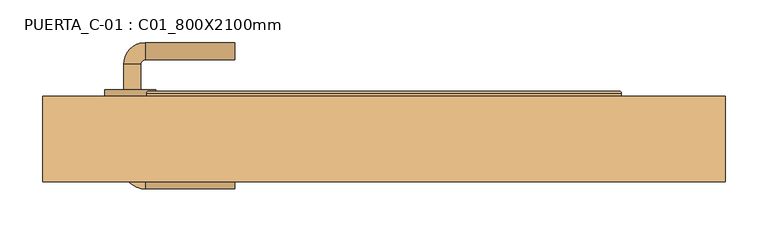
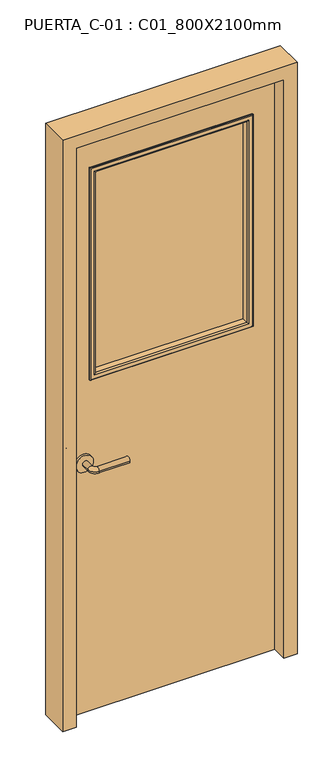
"""IFC4 building model written with IfcOpenShell, lengths in millimetres: door geometry, PUERTA_C-01 : C01_800X2100mm."""

from ifc_helpers import new_model, si_unit, point, frame, frame_2d, origin, place, context, project, spatial, polyline, circle_curve, ellipse_curve, trimmed, segment, composite_curve, outline, extrude, faceted_brep, source, transform, mapped, element, save
from ifc_brep_helpers import plane_surface, cylinder_surface, revolved_surface, advanced_brep


def puerta_c_01_c01_800x2100mm_f7d64b3f(model_context):
    return source(origin(), model_context, "Body", "SolidModel", [
        advanced_brep(
        [(-304.990625, 13.35, 900.0), (-284.990625, 13.35, 900.0), (-284.990625, -16.65, 900.0), (-304.990625, -16.65, 900.0), (-279.990625, -21.65, 900.0), (-279.990625, -41.65, 900.0), (-174.990625, -41.65, 900.0), (-174.990625, -21.65, 900.0)],
        [
            (0, 1, circle_curve(frame((-294.990625, 13.35, 900.0), z_axis=(0.0, 1.0, 0.0), x_axis=(1.0, 0.0, 0.0)), 10.0)),
            (1, 0, circle_curve(frame((-294.990625, 13.35, 900.0), z_axis=(0.0, 1.0, 0.0), x_axis=(1.0, 0.0, 0.0)), 10.0)),
            (1, 2),
            (2, 3, circle_curve(frame((-294.990625, -16.65, 900.0), z_axis=(0.0, 1.0, 0.0), x_axis=(1.0, 0.0, 0.0)), 10.0)),
            (3, 0),
            (3, 2, circle_curve(frame((-294.990625, -16.65, 900.0), z_axis=(0.0, 1.0, 0.0), x_axis=(1.0, 0.0, 0.0)), 10.0)),
            (4, 5, circle_curve(frame((-279.990625, -31.65, 900.0), z_axis=(-1.0, 0.0, 0.0), x_axis=(0.0, 1.0, 0.0)), 10.0)),
            (5, 3, circle_curve(frame((-279.990625, -16.65, 900.0), z_axis=(0.0, 0.0, -1.0), x_axis=(-1.0, 0.0, 0.0)), 25.0)),
            (2, 4, circle_curve(frame((-279.990625, -16.65, 900.0), z_axis=(0.0, 0.0, 1.0), x_axis=(-1.0, 0.0, 0.0)), 5.0)),
            (5, 4, circle_curve(frame((-279.990625, -31.65, 900.0), z_axis=(-1.0, 0.0, 0.0), x_axis=(0.0, 1.0, 0.0)), 10.0)),
            (6, 7, circle_curve(frame((-174.990625, -31.65, 900.0), z_axis=(1.0, 0.0, 0.0), x_axis=(0.0, 1.0, 0.0)), 10.0)),
            (7, 6, circle_curve(frame((-174.990625, -31.65, 900.0), z_axis=(1.0, 0.0, 0.0), x_axis=(0.0, 1.0, 0.0)), 10.0)),
            (4, 7),
            (6, 5),
        ],
        [
            plane_surface(frame((-294.990625, 13.35, 900.0), z_axis=(0.0, 1.0, 0.0), x_axis=(0.0, 0.0, 1.0))),
            cylinder_surface(frame((-294.990625, 13.35, 900.0), z_axis=(0.0, 1.0, 0.0), x_axis=(1.0, 0.0, 0.0)), 10.0),
            revolved_surface(trimmed(ellipse_curve(frame((-294.990625, -16.65, 900.0), z_axis=(0.0, -1.0, 0.0), x_axis=(1.0, 0.0, 0.0)), 10.0, 10.0), [point((-304.990625, -16.65, 900.0))], [point((-284.990625, -16.65, 900.0))], True, "CARTESIAN"), (-279.990625, -16.65, 900.0), (0.0, 0.0, -1.0)),
            revolved_surface(trimmed(ellipse_curve(frame((-294.990625, -16.65, 900.0), z_axis=(0.0, -1.0, 0.0), x_axis=(1.0, 0.0, 0.0)), 10.0, 10.0), [point((-284.990625, -16.65, 900.0))], [point((-304.990625, -16.65, 900.0))], True, "CARTESIAN"), (-279.990625, -16.65, 900.0), (0.0, 0.0, -1.0)),
            plane_surface(frame((-174.990625, -31.65, 900.0), z_axis=(1.0, 0.0, 0.0), x_axis=(0.0, 0.0, 1.0))),
            cylinder_surface(frame((-279.990625, -31.65, 900.0), z_axis=(-1.0, 0.0, 0.0), x_axis=(0.0, 1.0, 0.0)), 10.0),
        ],
        [
            (0, [[1, 2]]),
            (1, [[3, 4, 5, -2]]),
            (1, [[-5, 6, -3, -1]]),
            (2, [[7, 8, -4, 9]]),
            (3, [[10, -9, -6, -8]]),
            (4, [[11, 12]]),
            (5, [[13, -11, 14, -7]]),
            (5, [[-14, -12, -13, -10]]),
        ],
    ),
        extrude(outline(composite_curve([segment(trimmed(circle_curve(frame_2d((900.0, -297.490625)), 30.0), [point((900.0, -327.490625))], [point((900.0, -267.490625))], False, "CARTESIAN"), True, "CONTINUOUS"), segment(trimmed(circle_curve(frame_2d((900.0, -297.490625)), 30.0), [point((900.0, -267.490625))], [point((900.0, -327.490625))], False, "CARTESIAN"), True, "CONTINUOUS")], self_intersect=False)), frame((0.0, 13.35, 0.0), z_axis=(0.0, 1.0, 0.0), x_axis=(0.0, 0.0, 1.0)), (0.0, 0.0, 1.0), 8.0),
        advanced_brep(
        [(-304.990625, 74.35, 900.0), (-284.990625, 74.35, 900.0), (-304.990625, 104.35, 900.0), (-284.990625, 104.35, 900.0), (-279.990625, 109.35, 900.0), (-279.990625, 129.35, 900.0), (-174.990625, 129.35, 900.0), (-174.990625, 109.35, 900.0)],
        [
            (0, 1, circle_curve(frame((-294.990625, 74.35, 900.0), z_axis=(0.0, -1.0, 0.0), x_axis=(1.0, 0.0, 0.0)), 10.0)),
            (1, 0, circle_curve(frame((-294.990625, 74.35, 900.0), z_axis=(0.0, -1.0, 0.0), x_axis=(1.0, 0.0, 0.0)), 10.0)),
            (0, 2),
            (2, 3, circle_curve(frame((-294.990625, 104.35, 900.0), z_axis=(0.0, -1.0, 0.0), x_axis=(1.0, 0.0, 0.0)), 10.0)),
            (3, 1),
            (3, 2, circle_curve(frame((-294.990625, 104.35, 900.0), z_axis=(0.0, -1.0, 0.0), x_axis=(1.0, 0.0, 0.0)), 10.0)),
            (4, 3, circle_curve(frame((-279.990625, 104.35, 900.0), z_axis=(0.0, 0.0, 1.0), x_axis=(-1.0, 0.0, 0.0)), 5.0)),
            (2, 5, circle_curve(frame((-279.990625, 104.35, 900.0), z_axis=(0.0, 0.0, -1.0), x_axis=(-1.0, 0.0, 0.0)), 25.0)),
            (5, 4, circle_curve(frame((-279.990625, 119.35, 900.0), z_axis=(-1.0, 0.0, 0.0), x_axis=(0.0, -1.0, 0.0)), 10.0)),
            (4, 5, circle_curve(frame((-279.990625, 119.35, 900.0), z_axis=(-1.0, 0.0, 0.0), x_axis=(0.0, -1.0, 0.0)), 10.0)),
            (6, 7, circle_curve(frame((-174.990625, 119.35, 900.0), z_axis=(1.0, 0.0, 0.0), x_axis=(0.0, -1.0, 0.0)), 10.0)),
            (7, 6, circle_curve(frame((-174.990625, 119.35, 900.0), z_axis=(1.0, 0.0, 0.0), x_axis=(0.0, -1.0, 0.0)), 10.0)),
            (5, 6),
            (7, 4),
        ],
        [
            plane_surface(frame((-294.990625, 74.35, 900.0), z_axis=(0.0, -1.0, 0.0), x_axis=(0.0, 0.0, 1.0))),
            cylinder_surface(frame((-294.990625, 74.35, 900.0), z_axis=(0.0, -1.0, 0.0), x_axis=(1.0, 0.0, 0.0)), 10.0),
            revolved_surface(trimmed(ellipse_curve(frame((-294.990625, 104.35, 900.0), z_axis=(0.0, -1.0, 0.0), x_axis=(1.0, 0.0, 0.0)), 10.0, 10.0), [point((-304.990625, 104.35, 900.0))], [point((-284.990625, 104.35, 900.0))], True, "CARTESIAN"), (-279.990625, 104.35, 900.0), (0.0, 0.0, -1.0)),
            revolved_surface(trimmed(ellipse_curve(frame((-294.990625, 104.35, 900.0), z_axis=(0.0, -1.0, 0.0), x_axis=(1.0, 0.0, 0.0)), 10.0, 10.0), [point((-284.990625, 104.35, 900.0))], [point((-304.990625, 104.35, 900.0))], True, "CARTESIAN"), (-279.990625, 104.35, 900.0), (0.0, 0.0, -1.0)),
            plane_surface(frame((-174.990625, 119.35, 900.0), z_axis=(1.0, 0.0, 0.0), x_axis=(0.0, 0.0, 1.0))),
            cylinder_surface(frame((-279.990625, 119.35, 900.0), z_axis=(-1.0, 0.0, 0.0), x_axis=(0.0, -1.0, 0.0)), 10.0),
        ],
        [
            (0, [[1, 2]]),
            (1, [[-1, 3, 4, 5]]),
            (1, [[-2, -5, 6, -3]]),
            (2, [[7, -4, 8, 9]]),
            (3, [[-8, -6, -7, 10]]),
            (4, [[11, 12]]),
            (5, [[-9, 13, -12, 14]]),
            (5, [[-10, -14, -11, -13]]),
        ],
    ),
        extrude(outline(composite_curve([segment(trimmed(circle_curve(frame_2d((900.0, -297.490625)), 30.0), [point((900.0, -327.490625))], [point((900.0, -267.490625))], False, "CARTESIAN"), True, "CONTINUOUS"), segment(trimmed(circle_curve(frame_2d((900.0, -297.490625)), 30.0), [point((900.0, -267.490625))], [point((900.0, -327.490625))], False, "CARTESIAN"), True, "CONTINUOUS")], self_intersect=False)), frame((0.0, 66.35, 0.0), z_axis=(0.0, 1.0, 0.0), x_axis=(0.0, 0.0, 1.0)), (0.0, 0.0, 1.0), 8.0),
        faceted_brep([(370.0, 33.1875, 0.0), (370.0, 66.35, 0.0), (400.0, 66.35, 0.0), (400.0, -33.65, 0.0), (354.125, -33.65, 0.0), (354.125, 33.1875, 0.0), (370.0, 33.1875, 2100.0), (370.0, 66.35, 2100.0), (-370.0, 66.35, 2100.0), (-370.0, 66.35, 0.0), (-400.0, 66.35, 0.0), (-400.0, 66.35, 2130.0), (400.0, 66.35, 2130.0), (400.0, -33.65, 2130.0), (-400.0, -33.65, 2130.0), (-400.0, -33.65, 0.0), (-354.125, -33.65, 0.0), (-354.125, -33.65, 2084.125), (354.125, -33.65, 2084.125), (354.125, 33.1875, 2084.125), (-354.125, 33.1875, 2084.125), (-354.125, 33.1875, 0.0), (-370.0, 33.1875, 0.0), (-370.0, 33.1875, 2100.0)], [[[0, 1, 2, 3, 4, 5]], [[1, 0, 6, 7]], [[2, 1, 7, 8, 9, 10, 11, 12]], [[3, 2, 12, 13]], [[4, 3, 13, 14, 15, 16, 17, 18]], [[0, 5, 19, 20, 21, 22, 23, 6]], [[7, 6, 23, 8]], [[13, 12, 11, 14]], [[22, 21, 16, 15, 10, 9]], [[8, 23, 22, 9]], [[14, 11, 10, 15]], [[5, 4, 18, 19]], [[19, 18, 17, 20]], [[20, 17, 16, 21]]]),
        extrude(outline(polyline([(2100.0, -370.0), (0.0, -370.0), (0.0, 370.0), (2100.0, 370.0), (2100.0, -370.0)]), holes=[polyline([(1947.6, -270.0), (1947.6, 270.0), (1200.0, 270.0), (1200.0, -270.0), (1947.6, -270.0)])]), frame((0.0, 21.35, 0.0), z_axis=(0.0, 1.0, 0.0), x_axis=(0.0, 0.0, 1.0)), (0.0, 0.0, 1.0), 45.0),
        extrude(outline(polyline([(270.0, 41.35), (-270.0, 41.35), (-270.0, 46.35), (270.0, 46.35), (270.0, 41.35)])), frame((0.0, 0.0, 1200.0), z_axis=(0.0, 0.0, 1.0), x_axis=(1.0, 0.0, 0.0)), (0.0, 0.0, 1.0), 747.6),
        advanced_brep(
        [(-270.0, 41.35, 1200.0), (-270.0, 21.35, 1200.0), (-270.0, 21.35, 1947.6), (-270.0, 41.35, 1947.6), (-258.0, 20.35, 1212.0), (-258.0, 41.35, 1212.0), (-258.0, 41.35, 1935.6), (-258.0, 20.35, 1935.6), (-263.0, 15.35, 1207.0), (-263.0, 15.35, 1940.6), (-278.0, 17.35, 1192.0), (-276.0, 15.35, 1194.0), (-276.0, 15.35, 1953.6), (-278.0, 17.35, 1955.6), (-278.0, 21.35, 1192.0), (-278.0, 21.35, 1955.6), (270.0, 21.35, 1947.6), (270.0, 41.35, 1947.6), (258.0, 41.35, 1935.6), (258.0, 20.35, 1935.6), (263.0, 15.35, 1940.6), (276.0, 15.35, 1953.6), (278.0, 17.35, 1955.6), (278.0, 21.35, 1955.6), (270.0, 21.35, 1200.0), (270.0, 41.35, 1200.0), (258.0, 41.35, 1212.0), (258.0, 20.35, 1212.0), (263.0, 15.35, 1207.0), (276.0, 15.35, 1194.0), (278.0, 17.35, 1192.0), (278.0, 21.35, 1192.0)],
        [
            (0, 1),
            (1, 2),
            (2, 3),
            (3, 0),
            (4, 5),
            (5, 6),
            (6, 7),
            (7, 4),
            (8, 4, ellipse_curve(frame((-263.0, 20.35, 1207.0), z_axis=(-0.7071067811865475, 0.0, 0.7071067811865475), x_axis=(-0.7071067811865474, 0.0, -0.7071067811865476)), 7.0710678, 5.0)),
            (7, 9, ellipse_curve(frame((-263.0, 20.35, 1940.6), z_axis=(-0.7071067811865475, 0.0, -0.7071067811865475), x_axis=(0.7071067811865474, 0.0, -0.7071067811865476)), 7.0710678, 5.0)),
            (9, 8),
            (10, 11, ellipse_curve(frame((-276.0, 17.35, 1194.0), z_axis=(-0.7071067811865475, 0.0, 0.7071067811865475), x_axis=(-0.7071067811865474, 0.0, -0.7071067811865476)), 2.8284271, 2.0)),
            (11, 12),
            (12, 13, ellipse_curve(frame((-276.0, 17.35, 1953.6), z_axis=(-0.7071067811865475, 0.0, -0.7071067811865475), x_axis=(0.7071067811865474, 0.0, -0.7071067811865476)), 2.8284271, 2.0)),
            (13, 10),
            (14, 10),
            (13, 15),
            (15, 14),
            (2, 16),
            (16, 17),
            (17, 3),
            (6, 18),
            (18, 19),
            (19, 7),
            (19, 20, ellipse_curve(frame((263.0, 20.35, 1940.6), z_axis=(-0.7071067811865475, 0.0, 0.7071067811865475), x_axis=(-0.7071067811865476, 0.0, -0.7071067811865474)), 7.0710678, 5.0)),
            (20, 9),
            (12, 21),
            (21, 22, ellipse_curve(frame((276.0, 17.35, 1953.6), z_axis=(-0.7071067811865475, 0.0, 0.7071067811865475), x_axis=(-0.7071067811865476, 0.0, -0.7071067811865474)), 2.8284271, 2.0)),
            (22, 13),
            (22, 23),
            (23, 15),
            (16, 24),
            (24, 25),
            (25, 17),
            (18, 26),
            (26, 27),
            (27, 19),
            (27, 28, ellipse_curve(frame((263.0, 20.35, 1207.0), z_axis=(0.7071067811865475, 0.0, 0.7071067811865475), x_axis=(-0.7071067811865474, 0.0, 0.7071067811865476)), 7.0710678, 5.0)),
            (28, 20),
            (21, 29),
            (29, 30, ellipse_curve(frame((276.0, 17.35, 1194.0), z_axis=(0.7071067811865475, 0.0, 0.7071067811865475), x_axis=(-0.7071067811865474, 0.0, 0.7071067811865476)), 2.8284271, 2.0)),
            (30, 22),
            (30, 31),
            (31, 23),
            (31, 14),
            (1, 24),
            (0, 25),
            (5, 26),
            (4, 27),
            (8, 28),
            (11, 29),
            (10, 30),
        ],
        [
            plane_surface(frame((-270.0, 21.35, 1200.0), z_axis=(-1.0, 0.0, 0.0), x_axis=(0.0, 0.0, 1.0))),
            plane_surface(frame((-258.0, 41.35, 1212.0), z_axis=(1.0, 0.0, 0.0), x_axis=(0.0, 0.0, 1.0))),
            cylinder_surface(frame((-263.0, 20.35, 1200.0), z_axis=(0.0, 0.0, -1.0), x_axis=(-1.0, 0.0, 0.0)), 5.0),
            cylinder_surface(frame((-276.0, 17.35, 1200.0), z_axis=(0.0, 0.0, -1.0), x_axis=(-1.0, 0.0, 0.0)), 2.0),
            plane_surface(frame((-278.0, 17.35, 1192.0), z_axis=(-1.0, 0.0, 0.0), x_axis=(0.0, 0.0, 1.0))),
            plane_surface(frame((-270.0, 21.35, 1947.6), z_axis=(0.0, 0.0, 1.0), x_axis=(1.0, 0.0, 0.0))),
            plane_surface(frame((-258.0, 41.35, 1935.6), z_axis=(0.0, 0.0, -1.0), x_axis=(1.0, 0.0, 0.0))),
            cylinder_surface(frame((-270.0, 20.35, 1940.6), z_axis=(-1.0, 0.0, 0.0), x_axis=(0.0, 0.0, 1.0)), 5.0),
            cylinder_surface(frame((-270.0, 17.35, 1953.6), z_axis=(-1.0, 0.0, 0.0), x_axis=(0.0, 0.0, 1.0)), 2.0),
            plane_surface(frame((-278.0, 17.35, 1955.6), z_axis=(0.0, 0.0, 1.0), x_axis=(1.0, 0.0, 0.0))),
            plane_surface(frame((270.0, 21.35, 1947.6), z_axis=(1.0, 0.0, 0.0), x_axis=(0.0, 0.0, -1.0))),
            plane_surface(frame((258.0, 41.35, 1935.6), z_axis=(-1.0, 0.0, 0.0), x_axis=(0.0, 0.0, -1.0))),
            cylinder_surface(frame((263.0, 20.35, 1947.6), z_axis=(0.0, 0.0, 1.0), x_axis=(1.0, 0.0, 0.0)), 5.0),
            cylinder_surface(frame((276.0, 17.35, 1947.6), z_axis=(0.0, 0.0, 1.0), x_axis=(1.0, 0.0, 0.0)), 2.0),
            plane_surface(frame((278.0, 17.35, 1955.6), z_axis=(1.0, 0.0, 0.0), x_axis=(0.0, 0.0, -1.0))),
            plane_surface(frame((278.0, 21.35, 1192.0), z_axis=(0.0, 1.0, 0.0), x_axis=(-1.0, 0.0, 0.0))),
            plane_surface(frame((270.0, 21.35, 1200.0), z_axis=(0.0, 0.0, -1.0), x_axis=(-1.0, 0.0, 0.0))),
            plane_surface(frame((270.0, 41.35, 1200.0), z_axis=(0.0, 1.0, 0.0), x_axis=(-1.0, 0.0, 0.0))),
            plane_surface(frame((258.0, 41.35, 1212.0), z_axis=(0.0, 0.0, 1.0), x_axis=(-1.0, 0.0, 0.0))),
            cylinder_surface(frame((270.0, 20.35, 1207.0), z_axis=(1.0, 0.0, 0.0), x_axis=(0.0, 0.0, -1.0)), 5.0),
            plane_surface(frame((263.0, 15.35, 1207.0), z_axis=(0.0, -1.0, 0.0), x_axis=(-1.0, 0.0, 0.0))),
            cylinder_surface(frame((270.0, 17.35, 1194.0), z_axis=(1.0, 0.0, 0.0), x_axis=(0.0, 0.0, -1.0)), 2.0),
            plane_surface(frame((278.0, 17.35, 1192.0), z_axis=(0.0, 0.0, -1.0), x_axis=(-1.0, 0.0, 0.0))),
        ],
        [
            (0, [[1, 2, 3, 4]]),
            (1, [[5, 6, 7, 8]]),
            (2, [[9, -8, 10, 11]]),
            (3, [[12, 13, 14, 15]]),
            (4, [[16, -15, 17, 18]]),
            (5, [[-3, 19, 20, 21]]),
            (6, [[-7, 22, 23, 24]]),
            (7, [[-10, -24, 25, 26]]),
            (8, [[-14, 27, 28, 29]]),
            (9, [[-17, -29, 30, 31]]),
            (10, [[-20, 32, 33, 34]]),
            (11, [[-23, 35, 36, 37]]),
            (12, [[-25, -37, 38, 39]]),
            (13, [[-28, 40, 41, 42]]),
            (14, [[-30, -42, 43, 44]]),
            (15, [[-31, -44, 45, -18], [46, -32, -19, -2]]),
            (16, [[-33, -46, -1, 47]]),
            (17, [[-21, -34, -47, -4], [48, -35, -22, -6]]),
            (18, [[-36, -48, -5, 49]]),
            (19, [[-38, -49, -9, 50]]),
            (20, [[51, -40, -27, -13], [-26, -39, -50, -11]]),
            (21, [[-41, -51, -12, 52]]),
            (22, [[-43, -52, -16, -45]]),
        ],
    ),
        advanced_brep(
        [(-270.0, 46.35, 1947.6), (-270.0, 66.35, 1947.6), (-270.0, 66.35, 1200.0), (-270.0, 46.35, 1200.0), (-258.0, 67.35, 1935.6), (-258.0, 46.35, 1935.6), (-258.0, 46.35, 1212.0), (-258.0, 67.35, 1212.0), (-263.0, 72.35, 1940.6), (-263.0, 72.35, 1207.0), (-278.0, 70.35, 1955.6), (-276.0, 72.35, 1953.6), (-276.0, 72.35, 1194.0), (-278.0, 70.35, 1192.0), (-278.0, 66.35, 1955.6), (-278.0, 66.35, 1192.0), (270.0, 66.35, 1200.0), (270.0, 46.35, 1200.0), (258.0, 46.35, 1212.0), (258.0, 67.35, 1212.0), (263.0, 72.35, 1207.0), (276.0, 72.35, 1194.0), (278.0, 70.35, 1192.0), (278.0, 66.35, 1192.0), (270.0, 66.35, 1947.6), (270.0, 46.35, 1947.6), (258.0, 46.35, 1935.6), (258.0, 67.35, 1935.6), (263.0, 72.35, 1940.6), (276.0, 72.35, 1953.6), (278.0, 70.35, 1955.6), (278.0, 66.35, 1955.6)],
        [
            (0, 1),
            (1, 2),
            (2, 3),
            (3, 0),
            (4, 5),
            (5, 6),
            (6, 7),
            (7, 4),
            (8, 4, ellipse_curve(frame((-263.0, 67.35, 1940.6), z_axis=(-0.7071067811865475, 0.0, -0.7071067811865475), x_axis=(-0.7071067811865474, 0.0, 0.7071067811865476)), 7.0710678, 5.0)),
            (7, 9, ellipse_curve(frame((-263.0, 67.35, 1207.0), z_axis=(-0.7071067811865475, 0.0, 0.7071067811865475), x_axis=(0.7071067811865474, 0.0, 0.7071067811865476)), 7.0710678, 5.0)),
            (9, 8),
            (10, 11, ellipse_curve(frame((-276.0, 70.35, 1953.6), z_axis=(-0.7071067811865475, 0.0, -0.7071067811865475), x_axis=(-0.7071067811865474, 0.0, 0.7071067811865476)), 2.8284271, 2.0)),
            (11, 12),
            (12, 13, ellipse_curve(frame((-276.0, 70.35, 1194.0), z_axis=(-0.7071067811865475, 0.0, 0.7071067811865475), x_axis=(0.7071067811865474, 0.0, 0.7071067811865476)), 2.8284271, 2.0)),
            (13, 10),
            (14, 10),
            (13, 15),
            (15, 14),
            (2, 16),
            (16, 17),
            (17, 3),
            (6, 18),
            (18, 19),
            (19, 7),
            (19, 20, ellipse_curve(frame((263.0, 67.35, 1207.0), z_axis=(-0.7071067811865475, 0.0, -0.7071067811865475), x_axis=(-0.7071067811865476, 0.0, 0.7071067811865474)), 7.0710678, 5.0)),
            (20, 9),
            (12, 21),
            (21, 22, ellipse_curve(frame((276.0, 70.35, 1194.0), z_axis=(-0.7071067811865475, 0.0, -0.7071067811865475), x_axis=(-0.7071067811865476, 0.0, 0.7071067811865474)), 2.8284271, 2.0)),
            (22, 13),
            (22, 23),
            (23, 15),
            (16, 24),
            (24, 25),
            (25, 17),
            (18, 26),
            (26, 27),
            (27, 19),
            (27, 28, ellipse_curve(frame((263.0, 67.35, 1940.6), z_axis=(0.7071067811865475, 0.0, -0.7071067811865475), x_axis=(-0.7071067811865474, 0.0, -0.7071067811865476)), 7.0710678, 5.0)),
            (28, 20),
            (21, 29),
            (29, 30, ellipse_curve(frame((276.0, 70.35, 1953.6), z_axis=(0.7071067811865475, 0.0, -0.7071067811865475), x_axis=(-0.7071067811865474, 0.0, -0.7071067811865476)), 2.8284271, 2.0)),
            (30, 22),
            (30, 31),
            (31, 23),
            (31, 14),
            (1, 24),
            (0, 25),
            (5, 26),
            (4, 27),
            (8, 28),
            (11, 29),
            (10, 30),
        ],
        [
            plane_surface(frame((-270.0, 66.35, 1947.6), z_axis=(-1.0, 0.0, 0.0), x_axis=(0.0, 0.0, -1.0))),
            plane_surface(frame((-258.0, 46.35, 1935.6), z_axis=(1.0, 0.0, 0.0), x_axis=(0.0, 0.0, -1.0))),
            cylinder_surface(frame((-263.0, 67.35, 1947.6), z_axis=(0.0, 0.0, 1.0), x_axis=(-1.0, 0.0, 0.0)), 5.0),
            cylinder_surface(frame((-276.0, 70.35, 1947.6), z_axis=(0.0, 0.0, 1.0), x_axis=(-1.0, 0.0, 0.0)), 2.0),
            plane_surface(frame((-278.0, 70.35, 1955.6), z_axis=(-1.0, 0.0, 0.0), x_axis=(0.0, 0.0, -1.0))),
            plane_surface(frame((-270.0, 66.35, 1200.0), z_axis=(0.0, 0.0, -1.0), x_axis=(1.0, 0.0, 0.0))),
            plane_surface(frame((-258.0, 46.35, 1212.0), z_axis=(0.0, 0.0, 1.0), x_axis=(1.0, 0.0, 0.0))),
            cylinder_surface(frame((-270.0, 67.35, 1207.0), z_axis=(-1.0, 0.0, 0.0), x_axis=(0.0, 0.0, -1.0)), 5.0),
            cylinder_surface(frame((-270.0, 70.35, 1194.0), z_axis=(-1.0, 0.0, 0.0), x_axis=(0.0, 0.0, -1.0)), 2.0),
            plane_surface(frame((-278.0, 70.35, 1192.0), z_axis=(0.0, 0.0, -1.0), x_axis=(1.0, 0.0, 0.0))),
            plane_surface(frame((270.0, 66.35, 1200.0), z_axis=(1.0, 0.0, 0.0), x_axis=(0.0, 0.0, 1.0))),
            plane_surface(frame((258.0, 46.35, 1212.0), z_axis=(-1.0, 0.0, 0.0), x_axis=(0.0, 0.0, 1.0))),
            cylinder_surface(frame((263.0, 67.35, 1200.0), z_axis=(0.0, 0.0, -1.0), x_axis=(1.0, 0.0, 0.0)), 5.0),
            cylinder_surface(frame((276.0, 70.35, 1200.0), z_axis=(0.0, 0.0, -1.0), x_axis=(1.0, 0.0, 0.0)), 2.0),
            plane_surface(frame((278.0, 70.35, 1192.0), z_axis=(1.0, 0.0, 0.0), x_axis=(0.0, 0.0, 1.0))),
            plane_surface(frame((278.0, 66.35, 1955.6), z_axis=(0.0, -1.0, 0.0), x_axis=(-1.0, 0.0, 0.0))),
            plane_surface(frame((270.0, 66.35, 1947.6), z_axis=(0.0, 0.0, 1.0), x_axis=(-1.0, 0.0, 0.0))),
            plane_surface(frame((270.0, 46.35, 1947.6), z_axis=(0.0, -1.0, 0.0), x_axis=(-1.0, 0.0, 0.0))),
            plane_surface(frame((258.0, 46.35, 1935.6), z_axis=(0.0, 0.0, -1.0), x_axis=(-1.0, 0.0, 0.0))),
            cylinder_surface(frame((270.0, 67.35, 1940.6), z_axis=(1.0, 0.0, 0.0), x_axis=(0.0, 0.0, 1.0)), 5.0),
            plane_surface(frame((263.0, 72.35, 1940.6), z_axis=(0.0, 1.0, 0.0), x_axis=(-1.0, 0.0, 0.0))),
            cylinder_surface(frame((270.0, 70.35, 1953.6), z_axis=(1.0, 0.0, 0.0), x_axis=(0.0, 0.0, 1.0)), 2.0),
            plane_surface(frame((278.0, 70.35, 1955.6), z_axis=(0.0, 0.0, 1.0), x_axis=(-1.0, 0.0, 0.0))),
        ],
        [
            (0, [[1, 2, 3, 4]]),
            (1, [[5, 6, 7, 8]]),
            (2, [[9, -8, 10, 11]]),
            (3, [[12, 13, 14, 15]]),
            (4, [[16, -15, 17, 18]]),
            (5, [[-3, 19, 20, 21]]),
            (6, [[-7, 22, 23, 24]]),
            (7, [[-10, -24, 25, 26]]),
            (8, [[-14, 27, 28, 29]]),
            (9, [[-17, -29, 30, 31]]),
            (10, [[-20, 32, 33, 34]]),
            (11, [[-23, 35, 36, 37]]),
            (12, [[-25, -37, 38, 39]]),
            (13, [[-28, 40, 41, 42]]),
            (14, [[-30, -42, 43, 44]]),
            (15, [[-31, -44, 45, -18], [46, -32, -19, -2]]),
            (16, [[-33, -46, -1, 47]]),
            (17, [[-21, -34, -47, -4], [48, -35, -22, -6]]),
            (18, [[-36, -48, -5, 49]]),
            (19, [[-38, -49, -9, 50]]),
            (20, [[51, -40, -27, -13], [-26, -39, -50, -11]]),
            (21, [[-41, -51, -12, 52]]),
            (22, [[-43, -52, -16, -45]]),
        ],
    ),
    ])


if __name__ == "__main__":
    model = new_model("IFC4")
    model_context = context("Model", 3, world=origin())
    ifc_project = project(units=[si_unit("LENGTHUNIT", "METRE", prefix="MILLI")], contexts=[model_context])
    site = spatial("IfcSite", under=ifc_project)
    building = spatial("IfcBuilding", under=site)
    placement = place(None, origin())
    puerta_c_01_c01_800x2100mm_shape = puerta_c_01_c01_800x2100mm_f7d64b3f(model_context)
    element("IfcDoor", 1, ObjectType="PUERTA_C-01 : C01_800X2100mm", at=placement, inside=building, context=model_context, shape_type="MappedRepresentation", body=[
        mapped(puerta_c_01_c01_800x2100mm_shape, transform((0.0, 0.0, 0.0), x_axis=(1.0, 0.0, 0.0), y_axis=(0.0, 1.0, 0.0), z_axis=(0.0, 0.0, 1.0))),
    ])
    save(model, "model.ifc")
